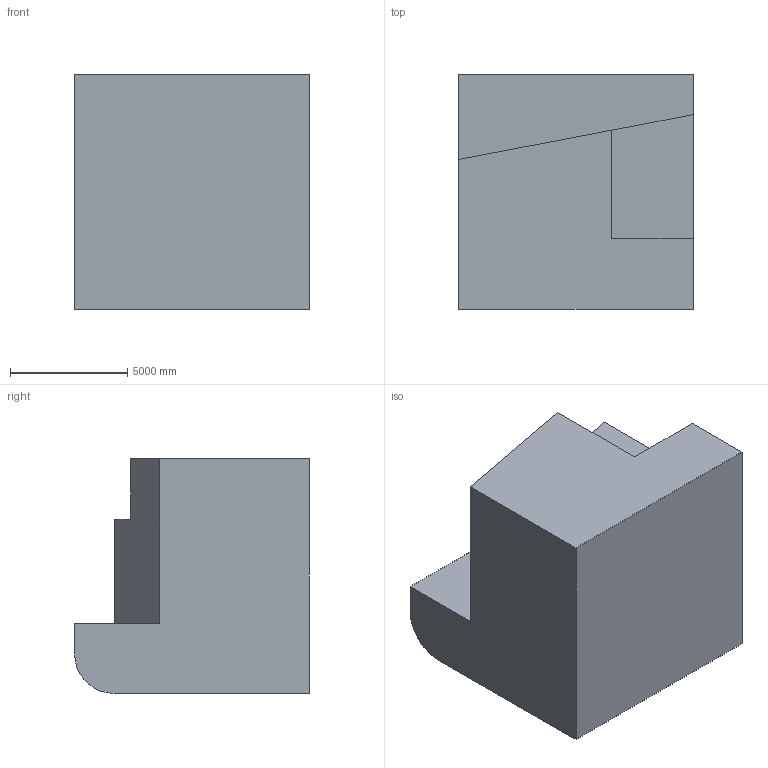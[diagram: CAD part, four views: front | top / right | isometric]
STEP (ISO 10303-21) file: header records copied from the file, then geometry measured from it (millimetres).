
FILE_DESCRIPTION (( 'STEP AP203' ), '1' );
FILE_NAME ('356.STEP', '2022-07-28T14:27:58', ( 'user' ), ( '' ), 'SwSTEP 2.0', 'SolidWorks 2021', '' );
FILE_SCHEMA (( 'CONFIG_CONTROL_DESIGN' ));
Length unit declared in the file: centimetre
Products named in the file (1): 356
Bounding box: 10000 x 10000 x 10000 mm (x, y, z)
Volume: 733923184541.1 mm3; surface area: 574247395.9 mm2
Topology: 1 solids, 1 shells, 17 faces, 45 edges, 30 vertices
Faces by surface type: plane 15, cylinder 2
Entity records: 600 total; most frequent: CARTESIAN_POINT 93, ORIENTED_EDGE 90, DIRECTION 85, EDGE_CURVE 45, LINE 41, VECTOR 41, VERTEX_POINT 30, AXIS2_PLACEMENT_3D 22
